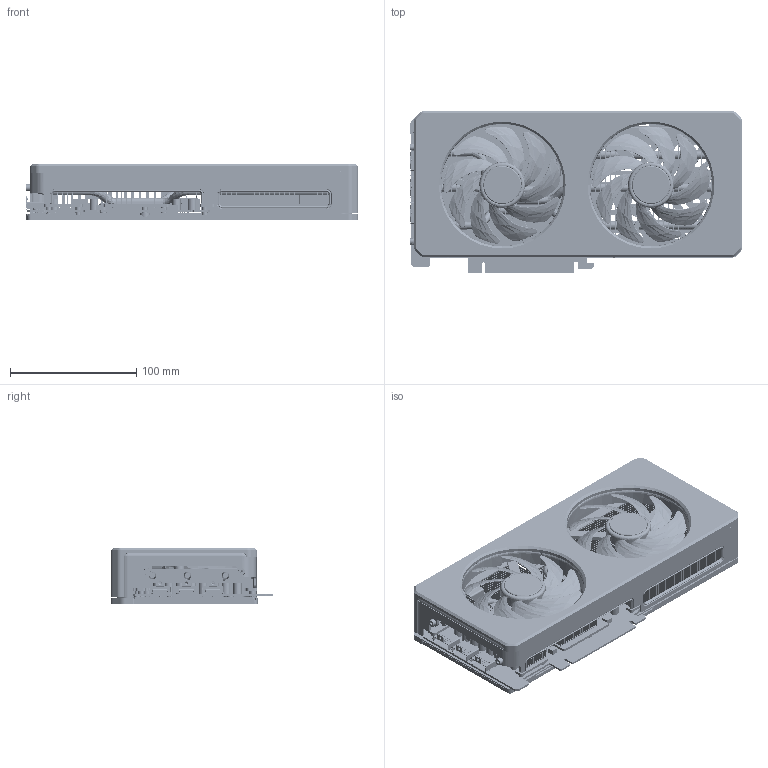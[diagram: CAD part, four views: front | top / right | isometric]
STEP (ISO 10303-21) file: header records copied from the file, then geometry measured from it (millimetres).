
FILE_DESCRIPTION((''),'2;1');
FILE_NAME('0000_GB2060_ASM_ASM_3_ASM','2025-04-23T13:39:48',('Kate'),(''),'CREO PARAMETRIC BY PTC INC, 2021304','CREO PARAMETRIC BY PTC INC, 2021304','');
FILE_SCHEMA(('AUTOMOTIVE_DESIGN { 1 0 10303 214 1 1 1 1 }'));
Products named in the file (61): GB2060_PCB_2; POWER_16PIN_2; 8PIN_POWER_1_1_1_2; DP_1_1_1_1_1_1_1_1_1_1_1_1_1_1_; HDMI_1_1_1_1_1_1_1_1_1_1_1_1_1_; DP-HDMI_ASM_1_ASM_2_ASM; GB2060_PCB_ASM_ASM_2_ASM; GB2060_MODULES_CU_BASE_2; DM280_AL_BASE_1125_1_1_1_1_1__1; M2_L4-6_NUT_2; M2_L4-69_NUT_1_1_1_1_1_1_1_1__1; GREASE_GB2060_5121_2; DM280_DRAM_PAD_2; DM280_MOS_PAD_01_1_1_1_1_1_1__2; DM280_CU_BASE_ASM_ASM_2_ASM; DM280-3HP_01_2; DM280-3HP_02_2; DM280-3HP_03_2; DM280-3HP_HP_ASM_ASM_2_ASM; DM280-3HP_FIN_01_2; DM280-3HP_FIN_02_2; DM280-3HP_FIN_03_2; DM280-3HP_FIN_04_2; DM280-3HP_FIN_05_2; DM280-3HP_FIN_06_2; DM280-3HP_FIN_07_2; DM280-3HP_FIN_09_2; DM280-3HP_FIN_10_2; DM280-3HP_FIN_11_2; DM280-3HP_FIN_12_2; DM280-3HP_FIN_ASM_ASM_2_ASM; DM280-3HP_AL1100_HOLDER_01_2; DM280_AL1100_HOLDER_02_2; DM280_AL1100_RAM_1_1_1_1_1_1__1; DM280_PAD_RAM_2; DM280_AL1100_RAM_02_2; DM280_AL1100_RAM_03_2; M2_L4-69_NUT_1_1_1_1_1_1_1_1__2; M2_L4-69_NUT_2; M2_L5-59_NUT_2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
Assembly tree (179 placements, depth 4):
  0000_GB2060_ASM_ASM_3_ASM
    GB2060_PCB_ASM_ASM_2_ASM
      GB2060_PCB_2
      POWER_16PIN_2
      8PIN_POWER_1_1_1_2
      DP-HDMI_ASM_1_ASM_2_ASM
        DP_1_1_1_1_1_1_1_1_1_1_1_1_1_1_  x3
        HDMI_1_1_1_1_1_1_1_1_1_1_1_1_1_
    DM280-3HP_MODULE_ASM_ASM_2_ASM
      DM280_CU_BASE_ASM_ASM_2_ASM
        GB2060_MODULES_CU_BASE_2
        DM280_AL_BASE_1125_1_1_1_1_1__1
        M2_L4-6_NUT_2  x4
        M2_L4-69_NUT_1_1_1_1_1_1_1_1__1  x2
        GREASE_GB2060_5121_2
        DM280_DRAM_PAD_2  x2
        DM280_MOS_PAD_01_1_1_1_1_1_1__2  x3
      DM280-3HP_HP_ASM_ASM_2_ASM
        DM280-3HP_01_2
        DM280-3HP_02_2
        DM280-3HP_03_2
      DM280-3HP_FIN_ASM_ASM_2_ASM
        DM280-3HP_FIN_01_2  x5
        DM280-3HP_FIN_02_2  x8
        DM280-3HP_FIN_03_2  x3
        DM280-3HP_FIN_04_2  x5
        DM280-3HP_FIN_05_2  x5
        DM280-3HP_FIN_06_2  x4
        DM280-3HP_FIN_07_2  x4
        DM280-3HP_FIN_09_2  x6
        DM280-3HP_FIN_10_2  x4
        DM280-3HP_FIN_11_2  x4
        DM280-3HP_FIN_12_2  x45
      DM280-3HP_AL1100_HOLDER_01_2
      DM280_AL1100_HOLDER_02_2
      DM280_AL1100_RAM_1_1_1_1_1_1__1
      DM280_PAD_RAM_2
      DM280_AL1100_RAM_02_2
      DM280_AL1100_RAM_03_2
      M2_L4-69_NUT_1_1_1_1_1_1_1_1__2  x4
      M2_L4-69_NUT_2  x2
      M2_L5-59_NUT_2  x2
      13-11-1220033-2A_2  x6
    F330-1B0_COVER_ASM_ASM_2_ASM
      F330-1B0-COVER_FEEDBACK_DRAFT_2
      F330-1B0_LED_ASM_ASM_2_ASM
        F330-1B0_LED_HG_2
        F330-1B0_LED_PCBA_2
        F330-1B0_LED_JGB_A_2
        F330-1B0_LED_JBG_B_2
      9513_A_VERSION_ASM_ASM_2_ASM  x2
        9513_SY_B_20230612_1__2
        9513_FAN_TRI_FRAME_1_1_2
        SCREW_13-51-0SR0001-1A_2
      NP_13-59-0AN0026-2A_01_2  x2
      13-11-1220033-2A_2  x2
    PC013-1B0_BACKPLATE_ASM_ASM_2_ASM
      PC013-1B0_BACKPLATE_2
      M2_SPRING_SCREW_L7_ASM_2_ASM  x6
        M2_SPRING_SCREW_L7_2
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Bounding box: 263.37 x 128.34 x 44 mm (x, y, z)
Volume: 393151.7 mm3; surface area: 734147.4 mm2
Topology: 178 solids, 221 shells, 17063 faces, 48990 edges, 32741 vertices
Faces by surface type: plane 10949, cylinder 4261, bspline 959, torus 606, cone 195, extrusion 69, sphere 16, revolution 8
Entity records: 305855 total; most frequent: CARTESIAN_POINT 111283, ORIENTED_EDGE 41270, DIRECTION 37406, EDGE_CURVE 20635, VERTEX_POINT 13544, VECTOR 12822, LINE 12759, AXIS2_PLACEMENT_3D 12288
